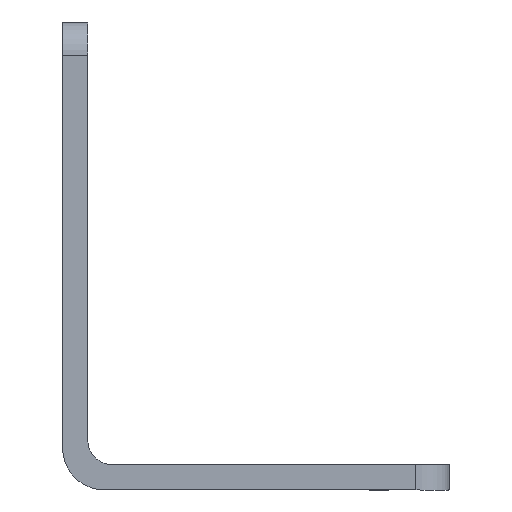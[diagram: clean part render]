
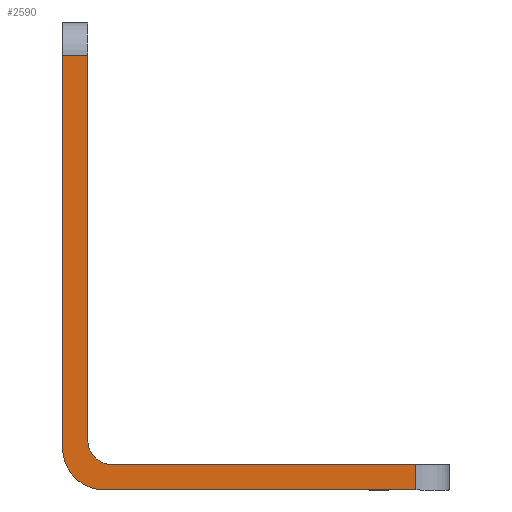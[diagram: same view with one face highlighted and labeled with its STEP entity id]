
A CAD part, front view. The second image highlights one B-rep face of the part: STEP entity #2590.
In plain terms, the highlighted planar face has unit normal (0, -1, 0).
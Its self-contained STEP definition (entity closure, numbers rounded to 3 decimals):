
#139=PLANE('',#2843);
#264=FACE_OUTER_BOUND('',#452,.T.);
#452=EDGE_LOOP('',(#2395,#2396,#2397,#2398,#2399,#2400,#2401,#2402));
#669=LINE('',#4257,#909);
#674=LINE('',#4269,#914);
#684=LINE('',#4303,#924);
#688=LINE('',#4312,#928);
#691=LINE('',#4320,#931);
#692=LINE('',#4324,#932);
#909=VECTOR('',#3516,3.);
#914=VECTOR('',#3527,37.2);
#924=VECTOR('',#3559,45.9);
#928=VECTOR('',#3569,3.);
#931=VECTOR('',#3578,36.2);
#932=VECTOR('',#3585,46.9);
#1057=CIRCLE('',#2838,5.);
#1058=CIRCLE('',#2841,3.);
#1282=VERTEX_POINT('',#4254);
#1283=VERTEX_POINT('',#4256);
#1287=VERTEX_POINT('',#4268);
#1299=VERTEX_POINT('',#4300);
#1300=VERTEX_POINT('',#4302);
#1302=VERTEX_POINT('',#4310);
#1303=VERTEX_POINT('',#4314);
#1304=VERTEX_POINT('',#4318);
#1636=EDGE_CURVE('',#1282,#1283,#669,.T.);
#1642=EDGE_CURVE('',#1287,#1283,#674,.T.);
#1659=EDGE_CURVE('',#1300,#1299,#684,.T.);
#1664=EDGE_CURVE('',#1302,#1299,#688,.T.);
#1665=EDGE_CURVE('',#1303,#1287,#1057,.T.);
#1668=EDGE_CURVE('',#1282,#1304,#691,.T.);
#1669=EDGE_CURVE('',#1304,#1300,#1058,.T.);
#1670=EDGE_CURVE('',#1302,#1303,#692,.T.);
#2395=ORIENTED_EDGE('',*,*,#1636,.F.);
#2396=ORIENTED_EDGE('',*,*,#1668,.T.);
#2397=ORIENTED_EDGE('',*,*,#1669,.T.);
#2398=ORIENTED_EDGE('',*,*,#1659,.T.);
#2399=ORIENTED_EDGE('',*,*,#1664,.F.);
#2400=ORIENTED_EDGE('',*,*,#1670,.T.);
#2401=ORIENTED_EDGE('',*,*,#1665,.T.);
#2402=ORIENTED_EDGE('',*,*,#1642,.T.);
#2590=ADVANCED_FACE('',(#264),#139,.F.);
#2838=AXIS2_PLACEMENT_3D('',#4315,#3572,#3573);
#2841=AXIS2_PLACEMENT_3D('',#4322,#3581,#3582);
#2843=AXIS2_PLACEMENT_3D('',#4325,#3586,#3587);
#3516=DIRECTION('',(0.,0.,-1.));
#3527=DIRECTION('',(1.,0.,0.));
#3559=DIRECTION('',(0.,0.,1.));
#3569=DIRECTION('',(1.,0.,0.));
#3572=DIRECTION('center_axis',(0.,-1.,0.));
#3573=DIRECTION('ref_axis',(0.,0.,1.));
#3578=DIRECTION('',(-1.,0.,0.));
#3581=DIRECTION('center_axis',(0.,1.,0.));
#3582=DIRECTION('ref_axis',(0.,0.,-1.));
#3585=DIRECTION('',(0.,0.,-1.));
#3586=DIRECTION('center_axis',(0.,1.,0.));
#3587=DIRECTION('ref_axis',(0.,0.,1.));
#4254=CARTESIAN_POINT('',(42.2,0.,3.));
#4256=CARTESIAN_POINT('',(42.2,0.,0.));
#4257=CARTESIAN_POINT('',(42.2,0.,10.133));
#4268=CARTESIAN_POINT('',(5.,0.,0.));
#4269=CARTESIAN_POINT('',(5.,0.,0.));
#4300=CARTESIAN_POINT('',(3.,0.,51.9));
#4302=CARTESIAN_POINT('',(3.,0.,6.));
#4303=CARTESIAN_POINT('',(3.,0.,6.));
#4310=CARTESIAN_POINT('',(0.,0.,51.9));
#4312=CARTESIAN_POINT('',(6.128,0.,51.9));
#4314=CARTESIAN_POINT('',(0.,0.,5.));
#4315=CARTESIAN_POINT('Origin',(5.,0.,5.));
#4318=CARTESIAN_POINT('',(6.,0.,3.));
#4320=CARTESIAN_POINT('',(46.2,0.,3.));
#4322=CARTESIAN_POINT('Origin',(6.,0.,6.));
#4324=CARTESIAN_POINT('',(0.,0.,55.9));
#4325=CARTESIAN_POINT('Origin',(12.255,0.,17.266));
